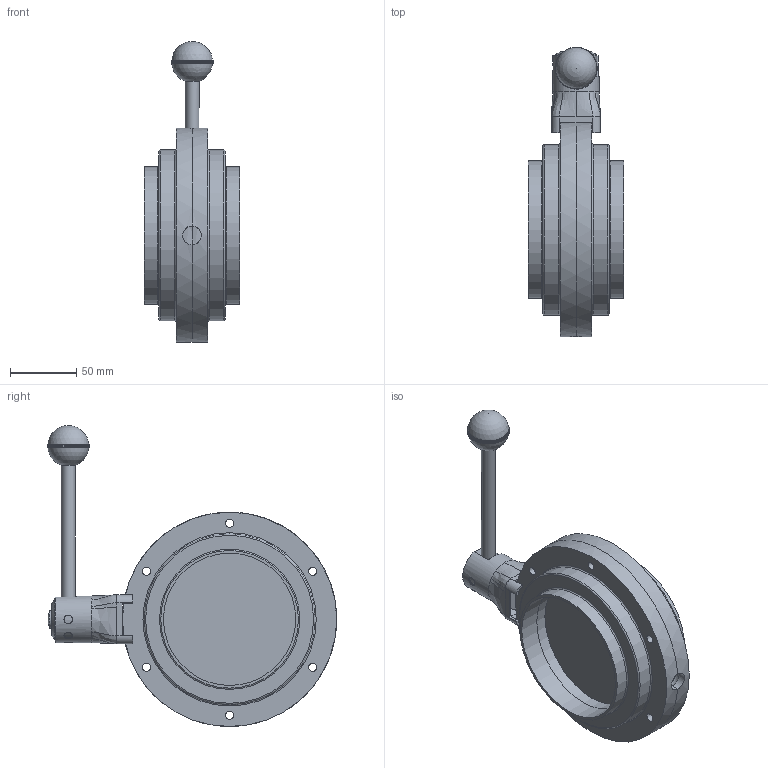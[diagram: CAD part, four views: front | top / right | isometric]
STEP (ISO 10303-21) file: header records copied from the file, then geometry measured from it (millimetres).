
FILE_DESCRIPTION(/* description */ ('VVF VALV.FARF.DN100 (104X2) SS EPDM 316 LEVA INOX 3POS.'),/* implementation_level */ '2;1');
FILE_NAME(/* name */ 'C:\_DED_PWS\GIOR-G\DB\B\EBA\BEBACG100BEBV-00^SAGOMA.step',/* time_stamp */ '2023-07-12T13:43:38+02:00',/* author */ (''),/* organization */ (''),/* preprocessor_version */ 'ST-DEVELOPER v18.1',/* originating_system */ 'Autodesk Inventor 2022',/* authorisation */ '');
FILE_SCHEMA (('CONFIG_CONTROL_DESIGN'));
Length unit declared in the file: millimetre
Products named in the file (3): BEBACG100BEBV; TNU430100AAA; TWD005100BBA
Assembly tree (3 placements, depth 2):
  BEBACG100BEBV
    TNU430100AAA
    TWD005100BBA  x2
Bounding box: 72 x 218.83 x 227.48 mm (x, y, z)
Volume: 661064.3 mm3; surface area: 161093.9 mm2
Topology: 5 solids, 6 shells, 558 faces, 1346 edges, 882 vertices
Faces by surface type: plane 362, torus 84, cylinder 58, bspline 38, cone 12, sphere 4
Full cylindrical faces by diameter (mm): 6 x2, 6.2 x12, 6.5 x3, 9 x2, 9.3 x1, 10 x1, 10.4 x1, 10.5 x1, 10.9 x1, 11.1 x2, 11.5 x2, 13.4 x1, 14.9 x1, 15.2 x1, 31.2 x1, 31.4 x1, 35.2 x1, 100 x2, 104 x2, 129 x2, 162 x2
Entity records: 22363 total; most frequent: CARTESIAN_POINT 9299, DIRECTION 2624, ORIENTED_EDGE 2580, EDGE_CURVE 1290, AXIS2_PLACEMENT_3D 1069, VERTEX_POINT 847, EDGE_LOOP 639, CIRCLE 564
